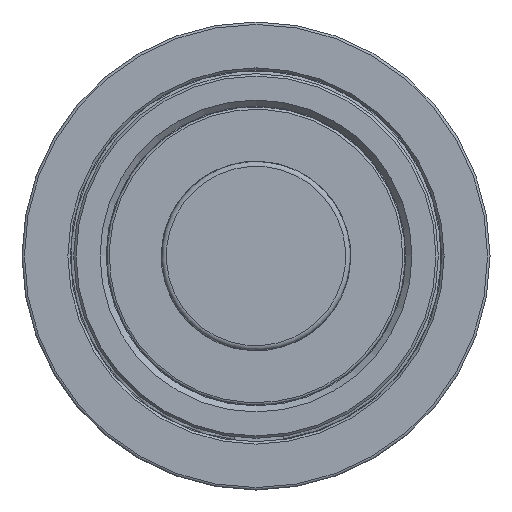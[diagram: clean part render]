
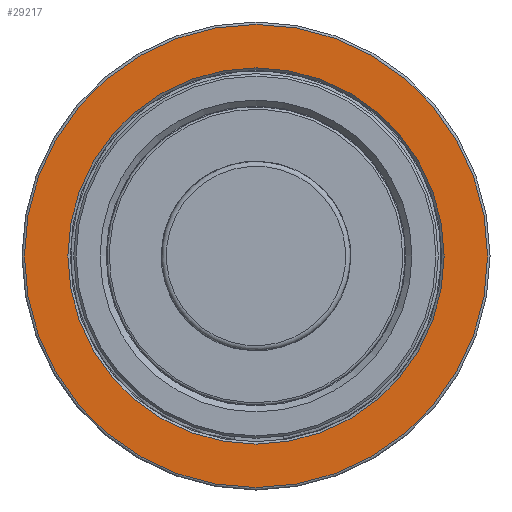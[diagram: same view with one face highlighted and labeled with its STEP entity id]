
A CAD part, front view. The second image highlights one B-rep face of the part: STEP entity #29217.
In plain terms, the highlighted planar face has unit normal (0, -1, 0).
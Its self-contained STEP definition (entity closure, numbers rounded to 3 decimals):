
#2673=FACE_BOUND('',#5662,.T.);
#2944=PLANE('',#30472);
#4084=FACE_OUTER_BOUND('',#5661,.T.);
#5661=EDGE_LOOP('',(#25096));
#5662=EDGE_LOOP('',(#25097));
#6551=CIRCLE('',#30471,19.05);
#6552=CIRCLE('',#30473,15.475);
#14079=VERTEX_POINT('',#55093);
#14080=VERTEX_POINT('',#55097);
#17919=EDGE_CURVE('',#14079,#14079,#6551,.T.);
#17920=EDGE_CURVE('',#14080,#14080,#6552,.T.);
#25096=ORIENTED_EDGE('',*,*,#17919,.F.);
#25097=ORIENTED_EDGE('',*,*,#17920,.F.);
#29217=ADVANCED_FACE('',(#4084,#2673),#2944,.T.);
#30471=AXIS2_PLACEMENT_3D('',#55095,#33333,#33334);
#30472=AXIS2_PLACEMENT_3D('',#55096,#33335,#33336);
#30473=AXIS2_PLACEMENT_3D('',#55098,#33337,#33338);
#33333=DIRECTION('center_axis',(0.,1.,0.));
#33334=DIRECTION('ref_axis',(0.,0.,
1.));
#33335=DIRECTION('center_axis',(0.,-1.,0.));
#33336=DIRECTION('ref_axis',(-1.,0.,0.));
#33337=DIRECTION('center_axis',(0.,-1.,0.));
#33338=DIRECTION('ref_axis',(0.,0.,
1.));
#55093=CARTESIAN_POINT('',(-19.05,-22.75,0.));
#55095=CARTESIAN_POINT('Origin',(0.,-22.75,0.));
#55096=CARTESIAN_POINT('Origin',(0.,-22.75,-19.25));
#55097=CARTESIAN_POINT('',(0.,-22.75,-15.475));
#55098=CARTESIAN_POINT('Origin',(0.,-22.75,0.));
